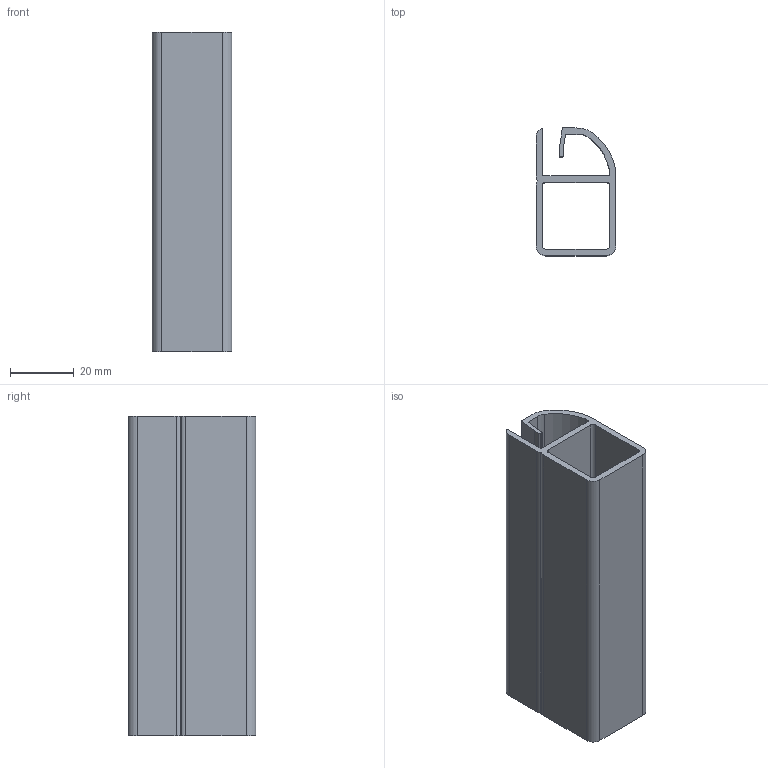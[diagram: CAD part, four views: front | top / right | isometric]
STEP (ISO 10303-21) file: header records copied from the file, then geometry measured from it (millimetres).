
FILE_DESCRIPTION (( 'STEP AP203' ), '1' );
FILE_NAME ('013.025.004.STEP', '2020-07-22T08:56:23', ( '' ), ( '' ), 'SwSTEP 2.0', 'SolidWorks 2018', '' );
FILE_SCHEMA (( 'CONFIG_CONTROL_DESIGN' ));
Length unit declared in the file: millimetre
Products named in the file (1): 013.025.004
Bounding box: 25 x 40 x 100 mm (x, y, z)
Volume: 26436.1 mm3; surface area: 27608.7 mm2
Topology: 1 solids, 1 shells, 39 faces, 111 edges, 74 vertices
Faces by surface type: plane 20, cylinder 17, bspline 2
Entity records: 1372 total; most frequent: CARTESIAN_POINT 251, ORIENTED_EDGE 222, DIRECTION 217, EDGE_CURVE 111, VERTEX_POINT 74, VECTOR 73, LINE 73, AXIS2_PLACEMENT_3D 72
